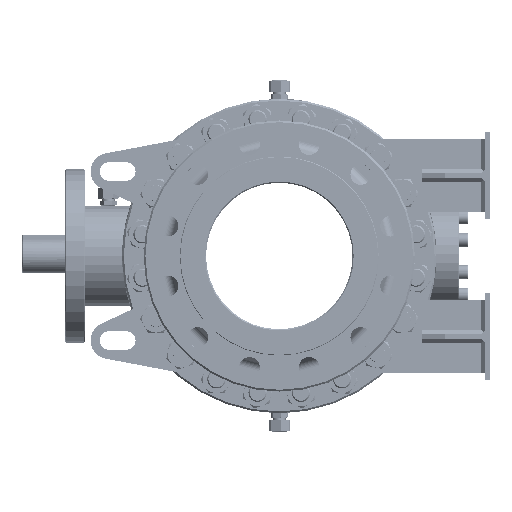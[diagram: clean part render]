
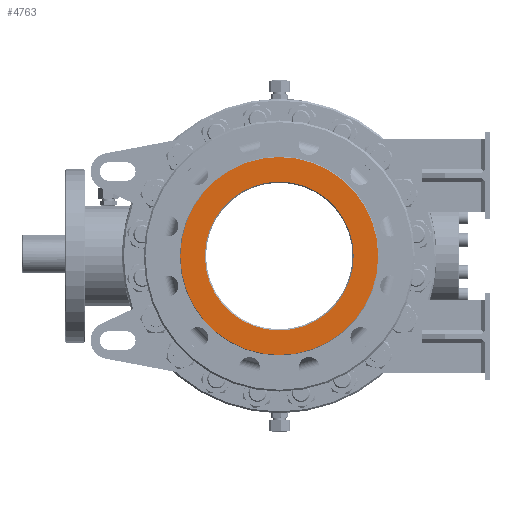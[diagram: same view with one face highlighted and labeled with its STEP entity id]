
A CAD part, left-side view. The second image highlights one B-rep face of the part: STEP entity #4763.
In plain terms, the highlighted planar face has unit normal (-1, 0, 0) as drawn and (1, 0, 0) by its records, which use the part's own axes.
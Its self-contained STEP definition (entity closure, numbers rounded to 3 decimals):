
#408 = ORIENTED_EDGE ( 'NONE', *, *, #16876, .T. ) ;
#931 = CARTESIAN_POINT ( 'NONE',  ( 243.5, 0., 0. ) ) ;
#1999 = AXIS2_PLACEMENT_3D ( 'NONE', #11791, #39128, #15732 ) ;
#2616 = VERTEX_POINT ( 'NONE', #20774 ) ;
#4763 = ADVANCED_FACE ( 'NONE', ( #10277, #19453 ), #34114, .F. ) ;
#4853 = DIRECTION ( 'NONE',  ( 0., 0., 1. ) ) ;
#5445 = ORIENTED_EDGE ( 'NONE', *, *, #29179, .F. ) ;
#10240 = CARTESIAN_POINT ( 'NONE',  ( 243.5, 0., 0. ) ) ;
#10277 = FACE_OUTER_BOUND ( 'NONE', #31139, .T. ) ;
#11791 = CARTESIAN_POINT ( 'NONE',  ( 243.5, 0., 0. ) ) ;
#11797 = CIRCLE ( 'NONE', #34428, 171.5 ) ;
#14160 = DIRECTION ( 'NONE',  ( 0., 0., 1. ) ) ;
#14508 = VERTEX_POINT ( 'NONE', #22959 ) ;
#15415 = AXIS2_PLACEMENT_3D ( 'NONE', #32942, #34278, #34317 ) ;
#15732 = DIRECTION ( 'NONE',  ( 0., 0., 1. ) ) ;
#16444 = ORIENTED_EDGE ( 'NONE', *, *, #42797, .F. ) ;
#16876 = EDGE_CURVE ( 'NONE', #17120, #14508, #31669, .T. ) ;
#17120 = VERTEX_POINT ( 'NONE', #49069 ) ;
#19453 = FACE_BOUND ( 'NONE', #47660, .T. ) ;
#20663 = CARTESIAN_POINT ( 'NONE',  ( 243.5, 0., 0. ) ) ;
#20774 = CARTESIAN_POINT ( 'NONE',  ( 243.5, 0., -171.5 ) ) ;
#22959 = CARTESIAN_POINT ( 'NONE',  ( 243.5, 0., 129. ) ) ;
#24634 = DIRECTION ( 'NONE',  ( 0., 0., 1. ) ) ;
#28263 = DIRECTION ( 'NONE',  ( -1., 0., 0. ) ) ;
#29179 = EDGE_CURVE ( 'NONE', #40216, #2616, #40025, .T. ) ;
#31139 = EDGE_LOOP ( 'NONE', ( #5445, #16444 ) ) ;
#31669 = CIRCLE ( 'NONE', #41751, 129. ) ;
#32942 = CARTESIAN_POINT ( 'NONE',  ( 243.5, 129., 0. ) ) ;
#34114 = PLANE ( 'NONE',  #15415 ) ;
#34278 = DIRECTION ( 'NONE',  ( -1., 0., 0. ) ) ;
#34317 = DIRECTION ( 'NONE',  ( 0., 0., 1. ) ) ;
#34428 = AXIS2_PLACEMENT_3D ( 'NONE', #10240, #37567, #14160 ) ;
#35266 = CIRCLE ( 'NONE', #1999, 129. ) ;
#36500 = ORIENTED_EDGE ( 'NONE', *, *, #40250, .T. ) ;
#37567 = DIRECTION ( 'NONE',  ( -1., 0., 0. ) ) ;
#39128 = DIRECTION ( 'NONE',  ( -1., 0., 0. ) ) ;
#40025 = CIRCLE ( 'NONE', #45887, 171.5 ) ;
#40216 = VERTEX_POINT ( 'NONE', #42741 ) ;
#40250 = EDGE_CURVE ( 'NONE', #14508, #17120, #35266, .T. ) ;
#41751 = AXIS2_PLACEMENT_3D ( 'NONE', #931, #28263, #4853 ) ;
#42741 = CARTESIAN_POINT ( 'NONE',  ( 243.5, 0., 171.5 ) ) ;
#42797 = EDGE_CURVE ( 'NONE', #2616, #40216, #11797, .T. ) ;
#45887 = AXIS2_PLACEMENT_3D ( 'NONE', #20663, #48030, #24634 ) ;
#47660 = EDGE_LOOP ( 'NONE', ( #408, #36500 ) ) ;
#48030 = DIRECTION ( 'NONE',  ( -1., 0., 0. ) ) ;
#49069 = CARTESIAN_POINT ( 'NONE',  ( 243.5, 0., -129. ) ) ;
